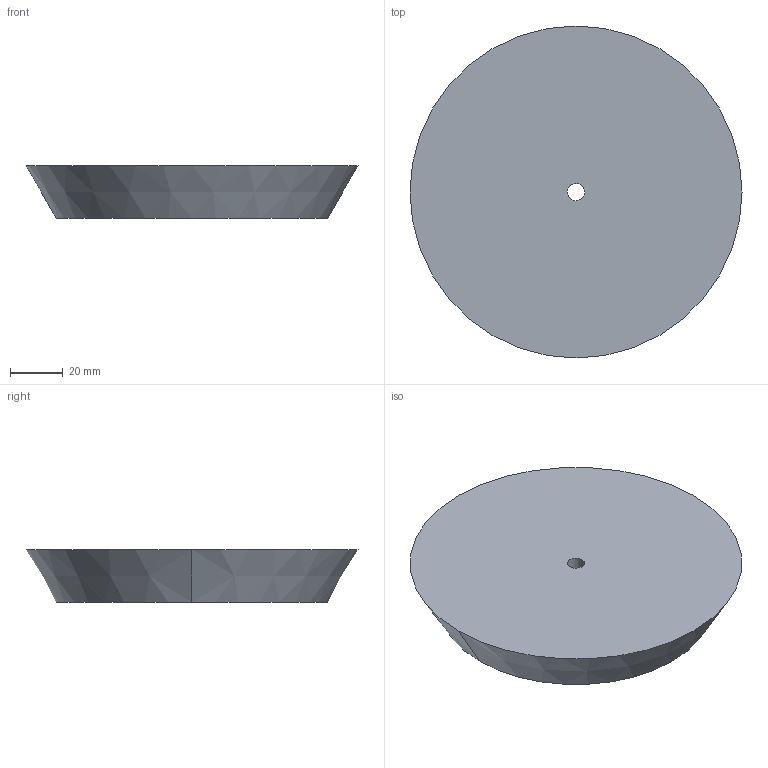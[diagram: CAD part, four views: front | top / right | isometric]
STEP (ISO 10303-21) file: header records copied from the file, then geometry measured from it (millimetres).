
FILE_DESCRIPTION(('CATIA V5 STEP Exchange'),'2;1');
FILE_NAME('C:\Users\andres.garcia\OneDrive - IQS\ASIGNATURAS\DAO\Controles\2223\c0\c1-FALCONES_JoseMaria-tapon.stp','2023-02-03T08:22:04+00:00',('none'),('none'),'CATIA Version 5-6 Release 2013 SP6','CATIA V5 STEP AP203','none');
FILE_SCHEMA(('CONFIG_CONTROL_DESIGN'));
Length unit declared in the file: millimetre
Products named in the file (1): c1-FALCONES_JoseMaria-tapon
Bounding box: 126 x 126 x 20 mm (x, y, z)
Volume: 205800.7 mm3; surface area: 29431.9 mm2
Topology: 1 solids, 1 shells, 6 faces, 12 edges, 8 vertices
Faces by surface type: cylinder 2, plane 2, cone 2
Entity records: 196 total; most frequent: CARTESIAN_POINT 26, ORIENTED_EDGE 24, DIRECTION 22, AXIS2_PLACEMENT_3D 14, EDGE_CURVE 12, CIRCLE 8, EDGE_LOOP 8, VERTEX_POINT 8
